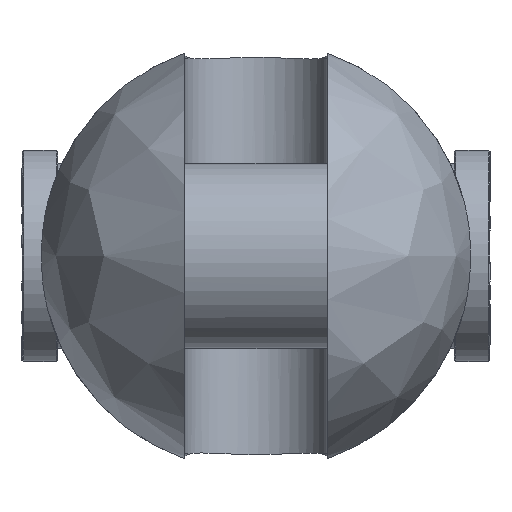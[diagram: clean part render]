
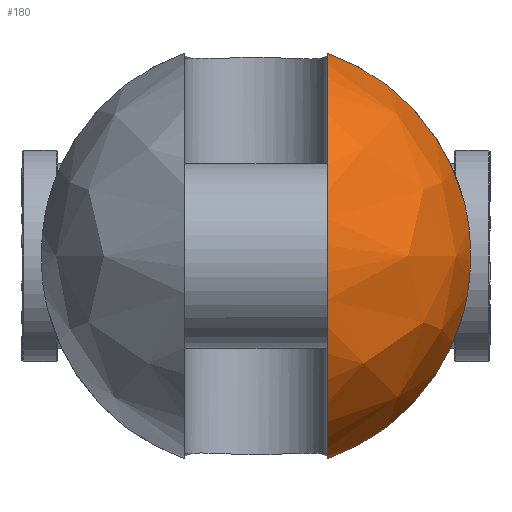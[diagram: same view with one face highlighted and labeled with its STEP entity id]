
A CAD part, left-side view. The second image highlights one B-rep face of the part: STEP entity #180.
In plain terms, the highlighted free-form (B-spline) face has degree [2, 2] with [9, 5] control points.
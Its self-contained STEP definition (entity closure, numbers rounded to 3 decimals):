
#180=ADVANCED_FACE('',(#322),#2445,.T.);
#322=FACE_OUTER_BOUND('',#484,.T.);
#484=EDGE_LOOP('',(#1207,#1208,#1209,#1210));
#1207=ORIENTED_EDGE('',*,*,#1593,.T.);
#1208=ORIENTED_EDGE('',*,*,#1621,.F.);
#1209=ORIENTED_EDGE('',*,*,#1633,.T.);
#1210=ORIENTED_EDGE('',*,*,#1613,.F.);
#1593=EDGE_CURVE('',#2276,#2275,#2006,.T.);
#1613=EDGE_CURVE('',#2276,#2288,#2016,.T.);
#1621=EDGE_CURVE('',#2295,#2275,#2017,.T.);
#1633=EDGE_CURVE('',#2295,#2288,#1808,.T.);
#1808=B_SPLINE_CURVE_WITH_KNOTS('',3,(#6263,#6264,#6265,#6266,#6267,#6268,
#6269,#6270,#6271,#6272,#6273,#6274,#6275,#6276),.UNSPECIFIED.,.F.,.F.,
(4,2,2,2,2,2,4),(0.,4.814,11.279,17.744,24.209,
30.674,35.488),.UNSPECIFIED.);
#2006=(
BOUNDED_CURVE()
B_SPLINE_CURVE(2,(#6007,#6008,#6009,#6010,#6011),.UNSPECIFIED.,.F.,.F.)
B_SPLINE_CURVE_WITH_KNOTS((3,2,3),(-195.487,-97.743,
0.),.UNSPECIFIED.)
CURVE()
GEOMETRIC_REPRESENTATION_ITEM()
RATIONAL_B_SPLINE_CURVE((1.,0.707,1.,0.707,1.))
REPRESENTATION_ITEM('')
);
#2016=(
BOUNDED_CURVE()
B_SPLINE_CURVE(2,(#6133,#6134,#6135),.UNSPECIFIED.,.F.,.F.)
B_SPLINE_CURVE_WITH_KNOTS((3,3),(0.,64.287),.UNSPECIFIED.)
CURVE()
GEOMETRIC_REPRESENTATION_ITEM()
RATIONAL_B_SPLINE_CURVE((1.,0.884,1.))
REPRESENTATION_ITEM('')
);
#2017=(
BOUNDED_CURVE()
B_SPLINE_CURVE(2,(#6190,#6191,#6192),.UNSPECIFIED.,.F.,.F.)
B_SPLINE_CURVE_WITH_KNOTS((3,3),(0.,64.287),.UNSPECIFIED.)
CURVE()
GEOMETRIC_REPRESENTATION_ITEM()
RATIONAL_B_SPLINE_CURVE((1.,0.884,1.))
REPRESENTATION_ITEM('')
);
#2275=VERTEX_POINT('',#5891);
#2276=VERTEX_POINT('',#5892);
#2288=VERTEX_POINT('',#5904);
#2295=VERTEX_POINT('',#5911);
#2445=(
BOUNDED_SURFACE()
B_SPLINE_SURFACE(2,2,((#5605,#5606,#5607,#5608,#5609),(#5610,#5611,#5612,
#5613,#5614),(#5615,#5616,#5617,#5618,#5619),(#5620,#5621,#5622,#5623,#5624),
(#5625,#5626,#5627,#5628,#5629),(#5630,#5631,#5632,#5633,#5634),(#5635,
#5636,#5637,#5638,#5639),(#5640,#5641,#5642,#5643,#5644),(#5645,#5646,#5647,
#5648,#5649)),.UNSPECIFIED.,.T.,.F.,.F.)
B_SPLINE_SURFACE_WITH_KNOTS((3,2,2,2,3),(3,2,3),(0.,103.673,207.345,
311.018,414.69),(0.,103.673,207.345),
 .UNSPECIFIED.)
GEOMETRIC_REPRESENTATION_ITEM()
RATIONAL_B_SPLINE_SURFACE(((1.,0.707,1.,0.707,1.),
(0.707,0.5,0.707,0.5,0.707),(1.,0.707,
1.,0.707,1.),(0.707,0.5,0.707,0.5,0.707),
(1.,0.707,1.,0.707,1.),(0.707,0.5,0.707,
0.5,0.707),(1.,0.707,1.,0.707,1.),(0.707,
0.5,0.707,0.5,0.707),(1.,0.707,1.,0.707,
1.)))
REPRESENTATION_ITEM('')
SURFACE()
);
#5605=CARTESIAN_POINT('',(-95.,0.,0.));
#5606=CARTESIAN_POINT('',(-95.,66.,0.));
#5607=CARTESIAN_POINT('',(-29.,66.,0.));
#5608=CARTESIAN_POINT('',(37.,66.,0.));
#5609=CARTESIAN_POINT('',(37.,0.,0.));
#5610=CARTESIAN_POINT('',(-95.,0.,0.));
#5611=CARTESIAN_POINT('',(-95.,66.,66.));
#5612=CARTESIAN_POINT('',(-29.,66.,66.));
#5613=CARTESIAN_POINT('',(37.,66.,66.));
#5614=CARTESIAN_POINT('',(37.,0.,0.));
#5615=CARTESIAN_POINT('',(-95.,0.,0.));
#5616=CARTESIAN_POINT('',(-95.,0.,66.));
#5617=CARTESIAN_POINT('',(-29.,0.,66.));
#5618=CARTESIAN_POINT('',(37.,0.,66.));
#5619=CARTESIAN_POINT('',(37.,0.,0.));
#5620=CARTESIAN_POINT('',(-95.,0.,0.));
#5621=CARTESIAN_POINT('',(-95.,-66.,66.));
#5622=CARTESIAN_POINT('',(-29.,-66.,66.));
#5623=CARTESIAN_POINT('',(37.,-66.,66.));
#5624=CARTESIAN_POINT('',(37.,0.,0.));
#5625=CARTESIAN_POINT('',(-95.,0.,0.));
#5626=CARTESIAN_POINT('',(-95.,-66.,0.));
#5627=CARTESIAN_POINT('',(-29.,-66.,0.));
#5628=CARTESIAN_POINT('',(37.,-66.,0.));
#5629=CARTESIAN_POINT('',(37.,0.,0.));
#5630=CARTESIAN_POINT('',(-95.,0.,0.));
#5631=CARTESIAN_POINT('',(-95.,-66.,-66.));
#5632=CARTESIAN_POINT('',(-29.,-66.,-66.));
#5633=CARTESIAN_POINT('',(37.,-66.,-66.));
#5634=CARTESIAN_POINT('',(37.,0.,0.));
#5635=CARTESIAN_POINT('',(-95.,0.,0.));
#5636=CARTESIAN_POINT('',(-95.,0.,-66.));
#5637=CARTESIAN_POINT('',(-29.,0.,-66.));
#5638=CARTESIAN_POINT('',(37.,0.,-66.));
#5639=CARTESIAN_POINT('',(37.,0.,0.));
#5640=CARTESIAN_POINT('',(-95.,0.,0.));
#5641=CARTESIAN_POINT('',(-95.,66.,-66.));
#5642=CARTESIAN_POINT('',(-29.,66.,-66.));
#5643=CARTESIAN_POINT('',(37.,66.,-66.));
#5644=CARTESIAN_POINT('',(37.,0.,0.));
#5645=CARTESIAN_POINT('',(-95.,0.,0.));
#5646=CARTESIAN_POINT('',(-95.,66.,0.));
#5647=CARTESIAN_POINT('',(-29.,66.,0.));
#5648=CARTESIAN_POINT('',(37.,66.,0.));
#5649=CARTESIAN_POINT('',(37.,0.,0.));
#5891=CARTESIAN_POINT('',(-29.,-22.,-62.225));
#5892=CARTESIAN_POINT('',(-29.,-22.,62.225));
#5904=CARTESIAN_POINT('',(-29.,-63.834,16.771));
#5911=CARTESIAN_POINT('',(-29.,-63.834,-16.771));
#6007=CARTESIAN_POINT('',(-29.,-22.,62.225));
#6008=CARTESIAN_POINT('',(-91.225,-22.,62.225));
#6009=CARTESIAN_POINT('',(-91.225,-22.,0.));
#6010=CARTESIAN_POINT('',(-91.225,-22.,-62.225));
#6011=CARTESIAN_POINT('',(-29.,-22.,-62.225));
#6133=CARTESIAN_POINT('',(-29.,-22.,62.225));
#6134=CARTESIAN_POINT('',(-29.,-54.953,50.575));
#6135=CARTESIAN_POINT('',(-29.,-63.834,16.771));
#6190=CARTESIAN_POINT('',(-29.,-63.834,-16.771));
#6191=CARTESIAN_POINT('',(-29.,-54.953,-50.575));
#6192=CARTESIAN_POINT('',(-29.,-22.,-62.225));
#6263=CARTESIAN_POINT('',(-29.,-63.834,-16.771));
#6264=CARTESIAN_POINT('',(-29.789,-64.192,-15.406));
#6265=CARTESIAN_POINT('',(-30.492,-64.508,-13.967));
#6266=CARTESIAN_POINT('',(-31.89,-65.135,-10.483));
#6267=CARTESIAN_POINT('',(-32.502,-65.406,-8.394));
#6268=CARTESIAN_POINT('',(-33.307,-65.762,-4.182));
#6269=CARTESIAN_POINT('',(-33.5,-65.846,-2.058));
#6270=CARTESIAN_POINT('',(-33.5,-65.846,2.058));
#6271=CARTESIAN_POINT('',(-33.307,-65.762,4.182));
#6272=CARTESIAN_POINT('',(-32.502,-65.406,8.394));
#6273=CARTESIAN_POINT('',(-31.89,-65.135,10.483));
#6274=CARTESIAN_POINT('',(-30.492,-64.508,13.967));
#6275=CARTESIAN_POINT('',(-29.789,-64.192,15.406));
#6276=CARTESIAN_POINT('',(-29.,-63.834,16.771));
